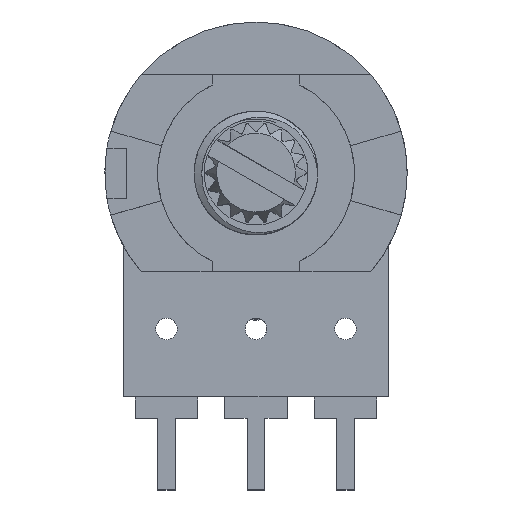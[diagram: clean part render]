
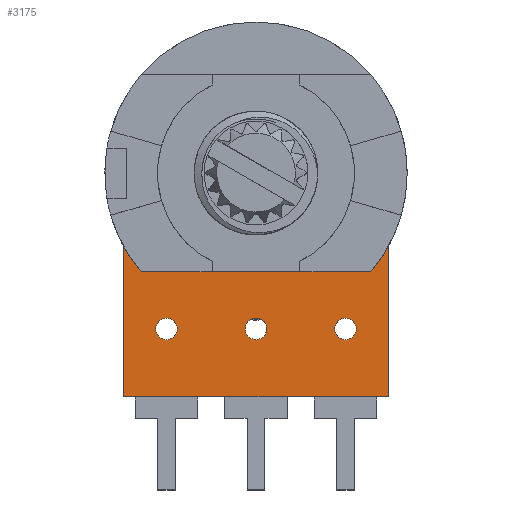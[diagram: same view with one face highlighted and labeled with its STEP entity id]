
A CAD part, top view. The second image highlights one B-rep face of the part: STEP entity #3175.
In plain terms, the highlighted planar face has unit normal (0, 0, 1).
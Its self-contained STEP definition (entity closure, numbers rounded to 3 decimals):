
#69=FACE_BOUND('',#375,.T.);
#70=FACE_BOUND('',#376,.T.);
#71=FACE_BOUND('',#377,.T.);
#84=PLANE('',#3386);
#203=FACE_OUTER_BOUND('',#374,.T.);
#374=EDGE_LOOP('',(#2226,#2227,#2228,#2229,#2230,#2231));
#375=EDGE_LOOP('',(#2232));
#376=EDGE_LOOP('',(#2233));
#377=EDGE_LOOP('',(#2234));
#537=CIRCLE('',#3387,8.45);
#538=CIRCLE('',#3388,8.45);
#539=CIRCLE('',#3389,0.6);
#540=CIRCLE('',#3390,0.6);
#541=CIRCLE('',#3391,0.6);
#741=LINE('',#5317,#1024);
#749=LINE('',#5338,#1032);
#750=LINE('',#5340,#1033);
#751=LINE('',#5342,#1034);
#1024=VECTOR('',#3730,10.);
#1032=VECTOR('',#3752,10.);
#1033=VECTOR('',#3753,10.);
#1034=VECTOR('',#3754,10.);
#1334=VERTEX_POINT('',#5315);
#1335=VERTEX_POINT('',#5316);
#1340=VERTEX_POINT('',#5335);
#1341=VERTEX_POINT('',#5337);
#1342=VERTEX_POINT('',#5339);
#1343=VERTEX_POINT('',#5341);
#1344=VERTEX_POINT('',#5344);
#1345=VERTEX_POINT('',#5346);
#1346=VERTEX_POINT('',#5348);
#1687=EDGE_CURVE('',#1334,#1335,#741,.T.);
#1697=EDGE_CURVE('',#1340,#1335,#537,.T.);
#1698=EDGE_CURVE('',#1341,#1340,#749,.T.);
#1699=EDGE_CURVE('',#1342,#1341,#750,.T.);
#1700=EDGE_CURVE('',#1343,#1342,#751,.T.);
#1701=EDGE_CURVE('',#1334,#1343,#538,.T.);
#1702=EDGE_CURVE('',#1344,#1344,#539,.T.);
#1703=EDGE_CURVE('',#1345,#1345,#540,.T.);
#1704=EDGE_CURVE('',#1346,#1346,#541,.T.);
#2226=ORIENTED_EDGE('',*,*,#1687,.T.);
#2227=ORIENTED_EDGE('',*,*,#1697,.F.);
#2228=ORIENTED_EDGE('',*,*,#1698,.F.);
#2229=ORIENTED_EDGE('',*,*,#1699,.F.);
#2230=ORIENTED_EDGE('',*,*,#1700,.F.);
#2231=ORIENTED_EDGE('',*,*,#1701,.F.);
#2232=ORIENTED_EDGE('',*,*,#1702,.T.);
#2233=ORIENTED_EDGE('',*,*,#1703,.T.);
#2234=ORIENTED_EDGE('',*,*,#1704,.T.);
#3175=ADVANCED_FACE('',(#203,#69,#70,#71),#84,.T.);
#3386=AXIS2_PLACEMENT_3D('',#5334,#3748,#3749);
#3387=AXIS2_PLACEMENT_3D('',#5336,#3750,#3751);
#3388=AXIS2_PLACEMENT_3D('',#5343,#3755,#3756);
#3389=AXIS2_PLACEMENT_3D('',#5345,#3757,#3758);
#3390=AXIS2_PLACEMENT_3D('',#5347,#3759,#3760);
#3391=AXIS2_PLACEMENT_3D('',#5349,#3761,#3762);
#3730=DIRECTION('',(-1.,0.,0.));
#3748=DIRECTION('center_axis',(0.,0.,1.));
#3749=DIRECTION('ref_axis',(1.,0.,0.));
#3750=DIRECTION('center_axis',(0.,0.,1.));
#3751=DIRECTION('ref_axis',(1.,0.,0.));
#3752=DIRECTION('',(0.,1.,0.));
#3753=DIRECTION('',(-1.,0.,0.));
#3754=DIRECTION('',(0.,-1.,0.));
#3755=DIRECTION('center_axis',(0.,0.,1.));
#3756=DIRECTION('ref_axis',(1.,0.,0.));
#3757=DIRECTION('center_axis',(0.,0.,-1.));
#3758=DIRECTION('ref_axis',(1.,0.,0.));
#3759=DIRECTION('center_axis',(0.,0.,-1.));
#3760=DIRECTION('ref_axis',(1.,0.,0.));
#3761=DIRECTION('center_axis',(0.,0.,-1.));
#3762=DIRECTION('ref_axis',(1.,0.,0.));
#5315=CARTESIAN_POINT('',(6.415,-5.5,0.));
#5316=CARTESIAN_POINT('',(-6.415,-5.5,0.));
#5317=CARTESIAN_POINT('',(1.225,-5.5,0.));
#5334=CARTESIAN_POINT('Origin',(0.,0.009,0.));
#5335=CARTESIAN_POINT('',(-7.4,-4.08,0.));
#5336=CARTESIAN_POINT('Origin',(0.,0.,0.));
#5337=CARTESIAN_POINT('',(-7.4,-12.5,0.));
#5338=CARTESIAN_POINT('',(-7.4,-12.5,0.));
#5339=CARTESIAN_POINT('',(7.4,-12.5,0.));
#5340=CARTESIAN_POINT('',(7.4,-12.5,0.));
#5341=CARTESIAN_POINT('',(7.4,-4.08,0.));
#5342=CARTESIAN_POINT('',(7.4,-4.08,0.));
#5343=CARTESIAN_POINT('Origin',(0.,0.,0.));
#5344=CARTESIAN_POINT('',(-0.6,-8.7,0.));
#5345=CARTESIAN_POINT('Origin',(0.,-8.7,0.));
#5346=CARTESIAN_POINT('',(-5.6,-8.7,0.));
#5347=CARTESIAN_POINT('Origin',(-5.,-8.7,0.));
#5348=CARTESIAN_POINT('',(4.4,-8.7,0.));
#5349=CARTESIAN_POINT('Origin',(5.,-8.7,0.));
